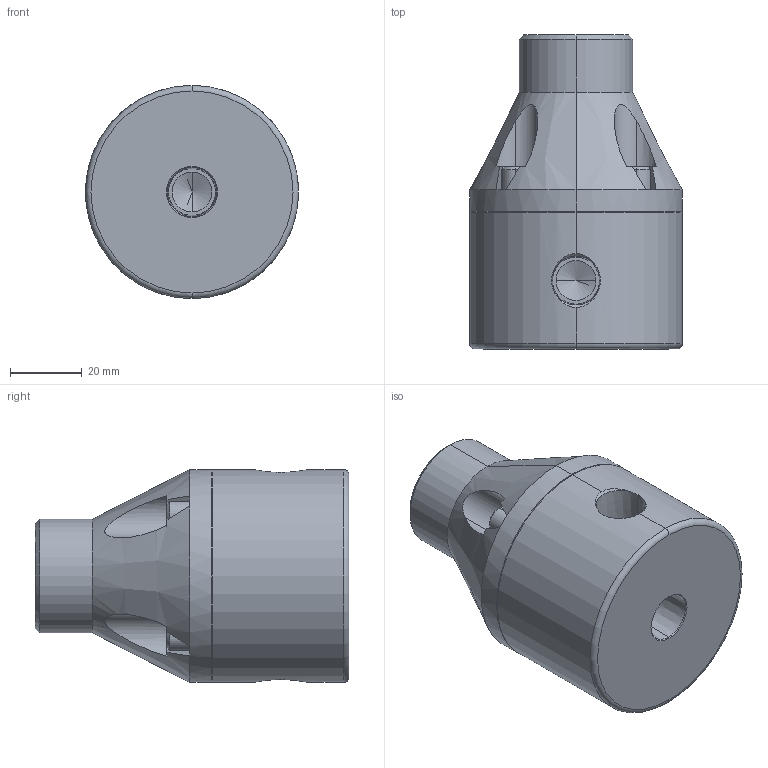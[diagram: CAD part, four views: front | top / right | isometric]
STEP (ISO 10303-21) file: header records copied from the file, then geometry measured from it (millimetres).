
FILE_DESCRIPTION (( 'STEP AP203' ), '1' );
FILE_NAME ('MPR0250-NPT.STEP', '2015-03-17T10:14:43', ( 'Dan Bernard' ), ( '' ), 'SwSTEP 2.0', 'SolidWorks 2008', '' );
FILE_SCHEMA (( 'CONFIG_CONTROL_DESIGN' ));
Length unit declared in the file: inch
Products named in the file (1): MPR0250-NPT
Bounding box: 59.44 x 87.63 x 59.44 mm (x, y, z)
Volume: 172334.3 mm3; surface area: 24400.1 mm2
Topology: 1 solids, 1 shells, 139 faces, 336 edges, 209 vertices
Faces by surface type: plane 71, cone 34, cylinder 32, torus 2
Entity records: 4415 total; most frequent: CARTESIAN_POINT 1089, DIRECTION 686, ORIENTED_EDGE 660, EDGE_CURVE 330, AXIS2_PLACEMENT_3D 246, VERTEX_POINT 209, VECTOR 194, LINE 194
